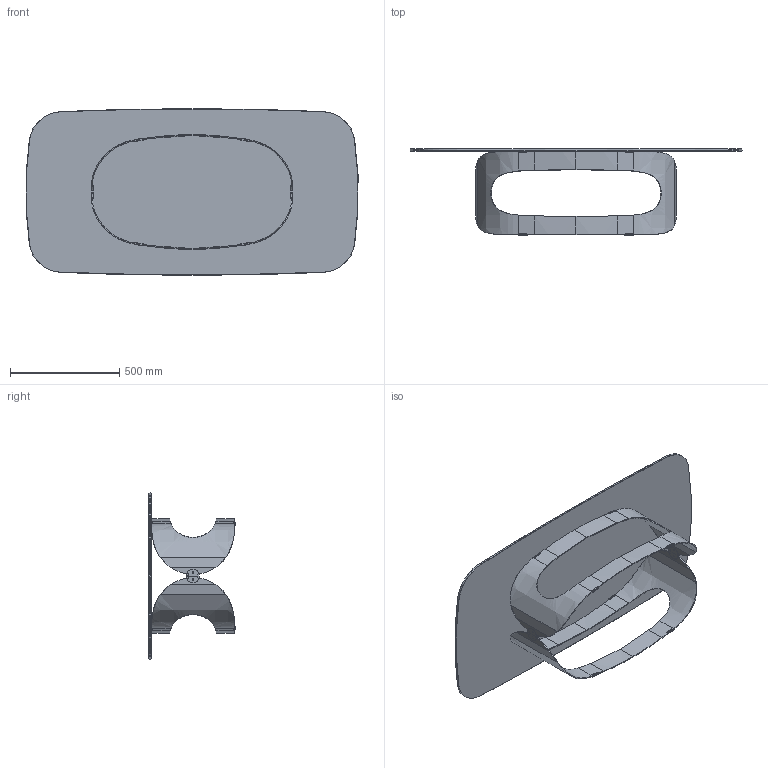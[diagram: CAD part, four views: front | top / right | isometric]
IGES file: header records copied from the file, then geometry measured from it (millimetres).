
Start section: SolidWorks IGES file using analytic representation for surfaces
Global section: file name: Y:\eforma\TECNICO\SOLIDWORKS\E-FORMA\2-TAVOLINI\POLIFEMO LOW\08 modelli 3D web\PW80G_Polifemo Low_152x76x39_Cristallo Sag..IGS; native system: SolidWorks 2022; preprocessor: SolidWorks 2022; author: eforma.tech; date: 240909.080121; units: millimetre
Bounding box: 1516.13 x 393.81 x 760 mm (x, y, z)
Volume: 13141037.7 mm3; surface area: 3357461.1 mm2
Topology: 17 solids, 17 shells, 369 faces, 900 edges, 559 vertices
Faces by surface type: revolution 161, plane 112, bspline 96
